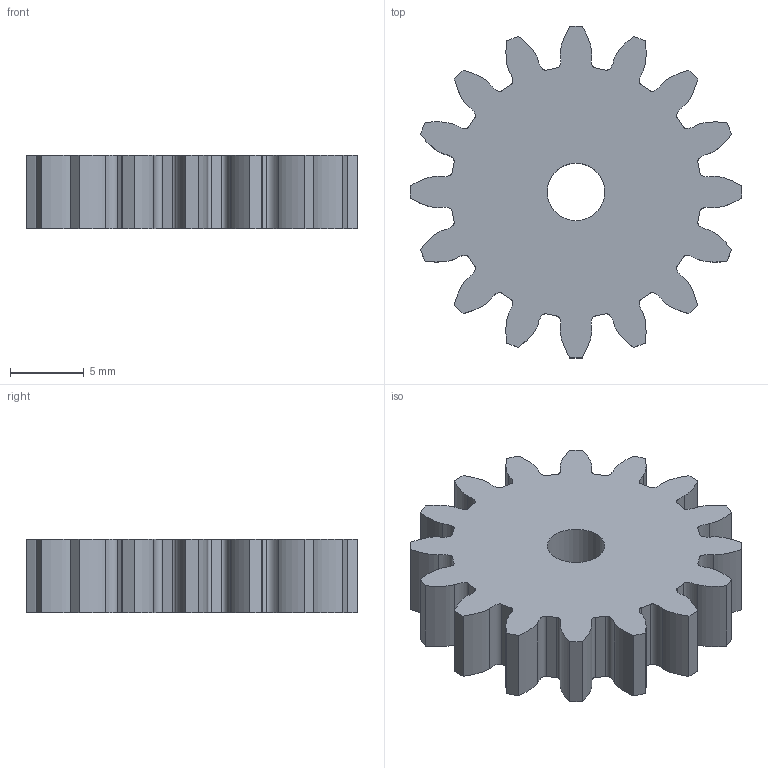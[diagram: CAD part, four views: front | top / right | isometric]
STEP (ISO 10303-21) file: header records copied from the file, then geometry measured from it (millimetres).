
FILE_DESCRIPTION(('Mechanical CAD reference from nasji.com'),'2;1');
FILE_NAME('NASJI.step','',(''),(''),'','NASJI distribution','');
FILE_SCHEMA(('AUTOMOTIVE_DESIGN { 1 0 10303 214 1 1 1 1 }'));
Length unit declared in the file: millimetre
Products named in the file (1): Open CASCADE STEP translator 7.8 209
Bounding box: 22.48 x 22.48 x 5 mm (x, y, z)
Volume: 1474.5 mm3; surface area: 1270.5 mm2
Topology: 1 solids, 1 shells, 99 faces, 291 edges, 194 vertices
Faces by surface type: bspline 96, plane 2, cylinder 1
Full cylindrical faces by diameter (mm): 3.9 x1
Entity records: 6646 total; most frequent: CARTESIAN_POINT 3291, ORIENTED_EDGE 582, PCURVE 582, DEFINITIONAL_REPRESENTATION 582, B_SPLINE_CURVE_WITH_KNOTS 480, EDGE_CURVE 291, SURFACE_CURVE 290, VERTEX_POINT 194
